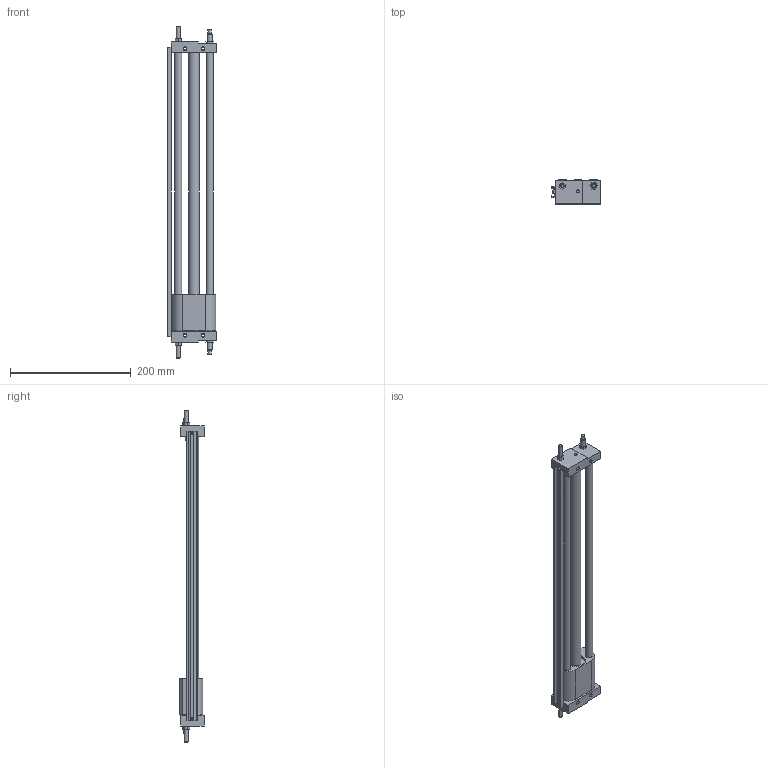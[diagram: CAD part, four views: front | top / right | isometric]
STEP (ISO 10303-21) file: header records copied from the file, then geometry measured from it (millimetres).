
FILE_DESCRIPTION( ( 'STEP AP214' ), '1' );
FILE_NAME( 'C:/Users/EMC02301/Desktop/ESWT图纸/ESWT16X400-S-B.stp', '2026-07-27T12:48:13', ( 'License CC BY-ND 4.0' ), ( 'CADENAS' ), ' ', 'PARTsolutions', ' ' );
FILE_SCHEMA( ( 'AUTOMOTIVE_DESIGN { 1 0 10303 214 1 1 1 1 }' ) );
Length unit declared in the file: millimetre
Products named in the file (4): ESWT16X400-S-B()(0); _ESWT16X400-S-B(0)()_dummy; _ESWT16X400-S-B(0)()_ROD; _ESWT16X400(0)()_BODY
Assembly tree (3 placements, depth 2):
  ESWT16X400-S-B()(0)
    _ESWT16X400-S-B(0)()_dummy
    _ESWT16X400-S-B(0)()_ROD
    _ESWT16X400(0)()_BODY
Bounding box: 82.5 x 40 x 550 mm (x, y, z)
Volume: 462765.2 mm3; surface area: 141833.5 mm2
Topology: 2 solids, 5 shells, 201 faces, 434 edges, 282 vertices
Faces by surface type: plane 114, cylinder 47, cone 38, torus 2
Full cylindrical faces by diameter (mm): 3 x2, 3.5 x2, 4.134 x10, 4.8 x2, 4.917 x4, 5.5 x4, 5.6 x2, 5.8 x2, 6 x2, 8 x2, 9.5 x4, 12 x4, 18 x2, 34 x2
Entity records: 6611 total; most frequent: DIRECTION 883, CARTESIAN_POINT 807, ORIENTED_EDGE 670, EDGE_LOOP 345, AXIS2_PLACEMENT_3D 343, EDGE_CURVE 335, VERTEX_POINT 266, FACE_OUTER_BOUND 247
